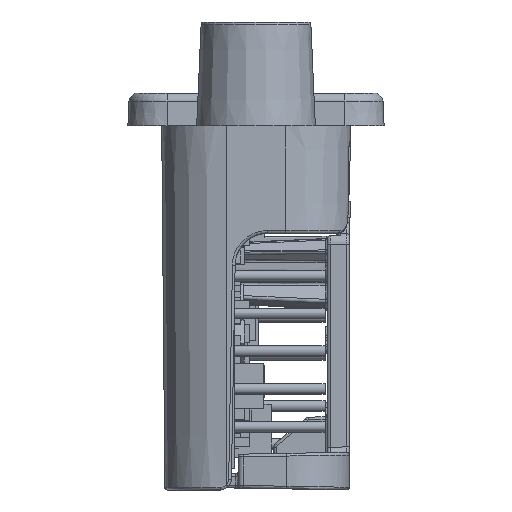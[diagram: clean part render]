
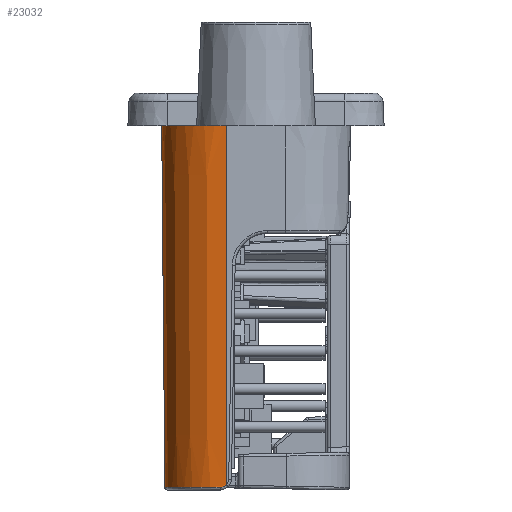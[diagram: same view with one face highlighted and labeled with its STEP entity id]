
A CAD part, front view. The second image highlights one B-rep face of the part: STEP entity #23032.
In plain terms, the highlighted conical face has half-angle 0.5 degrees and reference radius 6 mm.
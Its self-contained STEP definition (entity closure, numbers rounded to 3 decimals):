
#549 = DIRECTION ( 'NONE',  ( 0., 0., 1. ) ) ;
#726 = CARTESIAN_POINT ( 'NONE',  ( -7.356, -27.839, -3. ) ) ;
#1800 = EDGE_CURVE ( 'NONE', #25088, #51011, #30988, .T. ) ;
#3208 = CARTESIAN_POINT ( 'NONE',  ( -2.75, -24., -3. ) ) ;
#4660 = EDGE_CURVE ( 'NONE', #8295, #18055, #83458, .T. ) ;
#6086 = CIRCLE ( 'NONE', #42084, 5.996 ) ;
#6449 = CARTESIAN_POINT ( 'NONE',  ( -8.75, -24., -2.5 ) ) ;
#6996 = CARTESIAN_POINT ( 'NONE',  ( -2.75, -29.705, -36.33 ) ) ;
#8295 = VERTEX_POINT ( 'NONE', #78965 ) ;
#11412 = LINE ( 'NONE', #6449, #51027 ) ;
#15560 = CARTESIAN_POINT ( 'NONE',  ( -7.356, -27.839, -3. ) ) ;
#15962 = AXIS2_PLACEMENT_3D ( 'NONE', #70812, #57983, #43618 ) ;
#18055 = VERTEX_POINT ( 'NONE', #73976 ) ;
#18884 = DIRECTION ( 'NONE',  ( 0., 0., -1. ) ) ;
#19839 = B_SPLINE_CURVE_WITH_KNOTS ( 'NONE', 3,
 ( #82764, #55772, #34533, #6996 ),
 .UNSPECIFIED., .F., .F.,
 ( 4, 4 ),
 ( 0., 0.001 ),
 .UNSPECIFIED. ) ;
#20877 = ORIENTED_EDGE ( 'NONE', *, *, #88488, .T. ) ;
#21389 = B_SPLINE_CURVE_WITH_KNOTS ( 'NONE', 3,
 ( #66895, #59714, #75865, #726 ),
 .UNSPECIFIED., .F., .F.,
 ( 4, 4 ),
 ( 0., 0.001 ),
 .UNSPECIFIED. ) ;
#21777 = CARTESIAN_POINT ( 'NONE',  ( -2.75, -24., -36.552 ) ) ;
#23032 = ADVANCED_FACE ( 'NONE', ( #61056 ), #77137, .T. ) ;
#25088 = VERTEX_POINT ( 'NONE', #29713 ) ;
#26428 = EDGE_LOOP ( 'NONE', ( #79734, #66552, #20877, #83764, #82243, #45177, #66543 ) ) ;
#28635 = DIRECTION ( 'NONE',  ( -1., 0., 0. ) ) ;
#28744 = VECTOR ( 'NONE', #43141, 1000. ) ;
#29713 = CARTESIAN_POINT ( 'NONE',  ( -8.453, -24., -36.552 ) ) ;
#30156 = CARTESIAN_POINT ( 'NONE',  ( -3.307, -29.676, -36.552 ) ) ;
#30389 = DIRECTION ( 'NONE',  ( -1., 0., 0. ) ) ;
#30988 = CIRCLE ( 'NONE', #33444, 5.703 ) ;
#31564 = EDGE_CURVE ( 'NONE', #49098, #57449, #6086, .T. ) ;
#33444 = AXIS2_PLACEMENT_3D ( 'NONE', #21777, #549, #28635 ) ;
#34533 = CARTESIAN_POINT ( 'NONE',  ( -2.899, -29.704, -36.474 ) ) ;
#39941 = EDGE_CURVE ( 'NONE', #18055, #45791, #46216, .T. ) ;
#41709 = EDGE_CURVE ( 'NONE', #51011, #8295, #19839, .T. ) ;
#42084 = AXIS2_PLACEMENT_3D ( 'NONE', #3208, #43936, #30389 ) ;
#43141 = DIRECTION ( 'NONE',  ( 0., -0.009, 1. ) ) ;
#43618 = DIRECTION ( 'NONE',  ( -1., 0., 0. ) ) ;
#43936 = DIRECTION ( 'NONE',  ( 0., 0., -1. ) ) ;
#45177 = ORIENTED_EDGE ( 'NONE', *, *, #1800, .T. ) ;
#45791 = VERTEX_POINT ( 'NONE', #87502 ) ;
#45886 = DIRECTION ( 'NONE',  ( -1., 0., 0. ) ) ;
#46216 = CIRCLE ( 'NONE', #47544, 5.998 ) ;
#47544 = AXIS2_PLACEMENT_3D ( 'NONE', #60209, #18884, #45886 ) ;
#48576 = CARTESIAN_POINT ( 'NONE',  ( -8.746, -24., -3. ) ) ;
#49098 = VERTEX_POINT ( 'NONE', #15560 ) ;
#51011 = VERTEX_POINT ( 'NONE', #30156 ) ;
#51027 = VECTOR ( 'NONE', #75293, 1000. ) ;
#55772 = CARTESIAN_POINT ( 'NONE',  ( -3.101, -29.696, -36.552 ) ) ;
#57449 = VERTEX_POINT ( 'NONE', #48576 ) ;
#57983 = DIRECTION ( 'NONE',  ( 0., 0., 1. ) ) ;
#59714 = CARTESIAN_POINT ( 'NONE',  ( -7.352, -27.845, -2.832 ) ) ;
#60209 = CARTESIAN_POINT ( 'NONE',  ( -2.75, -24., -2.748 ) ) ;
#61056 = FACE_OUTER_BOUND ( 'NONE', #26428, .T. ) ;
#66543 = ORIENTED_EDGE ( 'NONE', *, *, #41709, .T. ) ;
#66552 = ORIENTED_EDGE ( 'NONE', *, *, #39941, .T. ) ;
#66895 = CARTESIAN_POINT ( 'NONE',  ( -7.351, -27.848, -2.748 ) ) ;
#70345 = CARTESIAN_POINT ( 'NONE',  ( -2.75, -30., -2.5 ) ) ;
#70812 = CARTESIAN_POINT ( 'NONE',  ( -2.75, -24., -2.5 ) ) ;
#73976 = CARTESIAN_POINT ( 'NONE',  ( -2.75, -29.998, -2.748 ) ) ;
#75293 = DIRECTION ( 'NONE',  ( -0.009, 0., 1. ) ) ;
#75833 = EDGE_CURVE ( 'NONE', #25088, #57449, #11412, .T. ) ;
#75865 = CARTESIAN_POINT ( 'NONE',  ( -7.354, -27.842, -2.916 ) ) ;
#77137 = CONICAL_SURFACE ( 'NONE', #15962, 6., 0.009 ) ;
#78965 = CARTESIAN_POINT ( 'NONE',  ( -2.75, -29.705, -36.33 ) ) ;
#79734 = ORIENTED_EDGE ( 'NONE', *, *, #4660, .T. ) ;
#82243 = ORIENTED_EDGE ( 'NONE', *, *, #75833, .F. ) ;
#82764 = CARTESIAN_POINT ( 'NONE',  ( -3.307, -29.676, -36.552 ) ) ;
#83458 = LINE ( 'NONE', #70345, #28744 ) ;
#83764 = ORIENTED_EDGE ( 'NONE', *, *, #31564, .T. ) ;
#87502 = CARTESIAN_POINT ( 'NONE',  ( -7.351, -27.848, -2.748 ) ) ;
#88488 = EDGE_CURVE ( 'NONE', #45791, #49098, #21389, .T. ) ;
